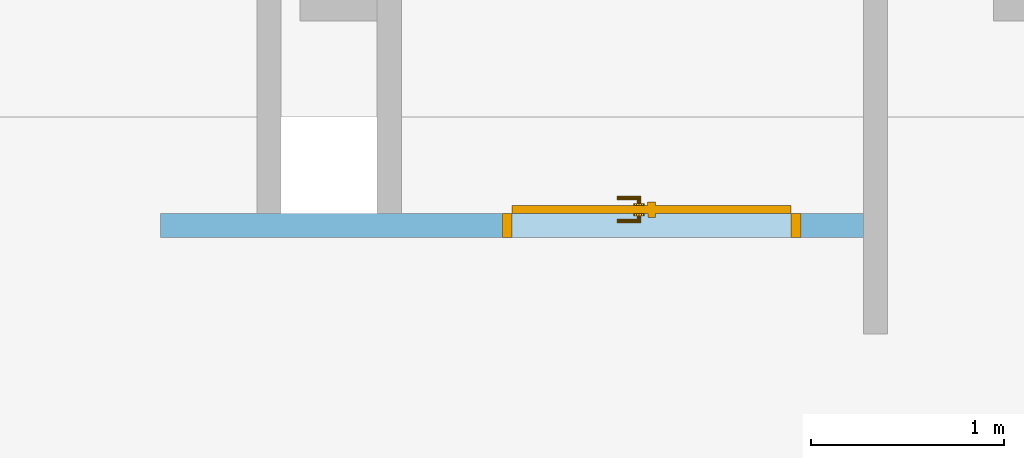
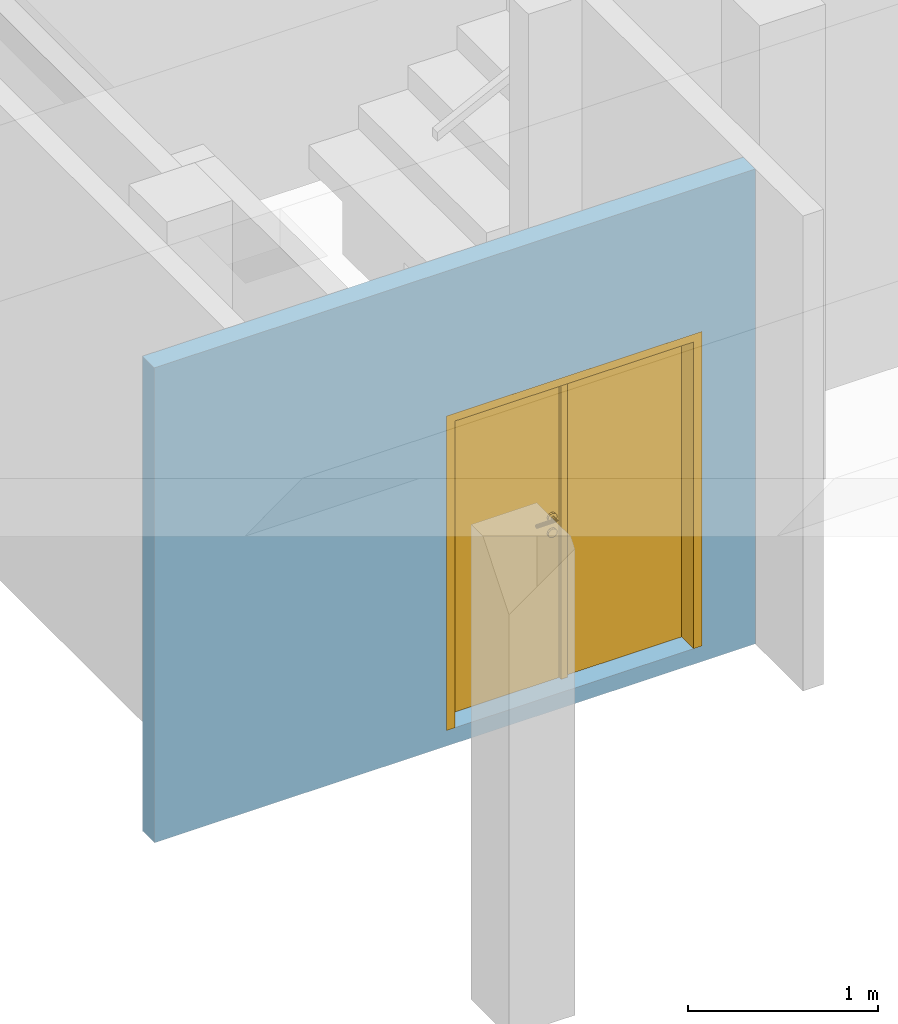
# One storey, part 23 of 27: 1 door, 1 opening, plus 1 element that does not belong to this part.
"""IFC4 building model written with IfcOpenShell, lengths in metres."""

from ifc_helpers import new_model, entity, si_unit, converted_unit, derived_unit, frame, frame_2d, origin, origin_with_axes, place, context, subcontext, project, spatial, polyline, rectangle, outline, extrude, closed_shell, open_shell, surface_model, source, transform, mapped, material, layer, layer_set, layer_usage, type_object, element, fill, save


model = new_model("IFC4")

# Units and contexts
model_context = context("Model", 3, precision=1e-05, world=origin())
body_context = subcontext(model_context, "Body", "Model", "MODEL_VIEW")
ifc_project = project(units=[si_unit("LENGTHUNIT", "METRE"), si_unit("AREAUNIT", "SQUARE_METRE"), si_unit("VOLUMEUNIT", "CUBIC_METRE"), si_unit("MASSUNIT", "GRAM", prefix="KILO"), converted_unit("PLANEANGLEUNIT", "DEGREE", entity("IfcPlaneAngleMeasure", 0.0174532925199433), si_unit("PLANEANGLEUNIT", "RADIAN"), dimensions=[0, 0, 0, 0, 0, 0, 0]), derived_unit("THERMALTRANSMITTANCEUNIT", [(si_unit("POWERUNIT", "WATT"), 1), (si_unit("THERMODYNAMICTEMPERATUREUNIT", "KELVIN"), -1), (si_unit("LENGTHUNIT", "METRE"), -2)]), derived_unit("VOLUMETRICFLOWRATEUNIT", [(si_unit("LENGTHUNIT", "METRE"), 3), (converted_unit("TIMEUNIT", "hour", entity("IfcTimeMeasure", 3600.0), si_unit("TIMEUNIT", "SECOND"), dimensions=[0, 0, 1, 0, 0, 0, 0]), -1), (si_unit("LENGTHUNIT", "METRE"), -1)])], contexts=[model_context])

# Site, building, storey
site_placement = place(None, origin())
site = spatial("IfcSite", under=ifc_project, at=site_placement, Name="3. ASŘ", CompositionType="ELEMENT")
building_placement = place(site_placement, origin())
building = spatial("IfcBuilding", under=site, at=building_placement, Name="Pavilon C", CompositionType="ELEMENT")
storey_placement = place(building_placement, frame((0.0, 0.0, 7.2)))
storey = spatial("IfcBuildingStorey", under=building, at=storey_placement, Name="Půdorys 3.NP", CompositionType="ELEMENT", Elevation=7.2)

# Wall, opening, door
ifc_material = material(Name="ZDIVO Z CDm")
ifc_layer = layer(ifc_material, 0.125)
ifc_layer_set = layer_set([ifc_layer])
ifc_layer_usage = layer_usage(ifc_layer_set, "AXIS2", "POSITIVE", 0.0)
wall_placement = place(storey_placement, frame((43.075, 27.6, -0.1), z_axis=(0.0, 0.0, 1.0), x_axis=(-1.0, 0.0, 0.0)))
wall = element("IfcWall", 1, at=wall_placement, inside=storey, material=ifc_layer_usage, Name="ZDIVO Z CDm", context=body_context, shape_type="SweptSolid", body=[
    extrude(rectangle(XDim=3.65, YDim=0.125, at=frame_2d((1.825, 0.0625), x_axis=(1.0, 0.0))), origin_with_axes(), (0.0, 0.0, 1.0), 3.05),
])
opening_placement = place(wall_placement, frame((0.325, 0.0, 0.1), z_axis=(0.0, 1.0, 0.0), x_axis=(0.0, 0.0, 1.0)))
opening = element("IfcOpeningElement", 2, at=opening_placement, cuts=wall, Name="Dveřní otvor", ObjectType="Opening", context=body_context, shape_type="SweptSolid", body=[
    extrude(outline(polyline([(0.0, 1.55), (2.02, 1.55), (2.02, 0.0), (0.0, 0.0), (0.0, 1.55)])), origin_with_axes(), (0.0, 0.0, 1.0), 0.125),
])
door_type = type_object("IfcDoorType", Name="D501", OperationType="NOTDEFINED", ParameterTakesPrecedence=False, PredefinedType="DOOR")
shared_shape = source(origin_with_axes(), body_context, "Body", "SurfaceModel", [
    surface_model("IfcShellBasedSurfaceModel", [(0.0, 0.125, 2.02), (0.0, 0.125, -7.65404249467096e-18), (0.05, 0.125, -7.65404249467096e-18), (0.05, 0.125, 2.02), (0.0, 0.0, 7.65404249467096e-18), (0.0, 2.41584530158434e-16, 2.02), (0.05, 2.41584530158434e-16, 2.02), (0.05, 0.0, 7.65404249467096e-18)], [closed_shell([[[0, 1, 2, 3]], [[4, 5, 6, 7]], [[1, 0, 5, 4]], [[2, 1, 4, 7]], [[3, 2, 7, 6]], [[0, 3, 6, 5]]], orient=[[False], [False], [False], [False], [False], [False]])]),
    surface_model("IfcShellBasedSurfaceModel", [(1.5, 0.125, 2.02), (1.5, 0.125, -7.65404249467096e-18), (1.55, 0.125, -7.65404249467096e-18), (1.55, 0.125, 2.02), (1.5, 0.0, 7.65404249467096e-18), (1.5, 2.41584530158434e-16, 2.02), (1.55, 2.41584530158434e-16, 2.02), (1.55, 0.0, 7.65404249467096e-18)], [closed_shell([[[0, 1, 2, 3]], [[4, 5, 6, 7]], [[1, 0, 5, 4]], [[2, 1, 4, 7]], [[3, 2, 7, 6]], [[0, 3, 6, 5]]], orient=[[False], [False], [False], [False], [False], [False]])]),
    surface_model("IfcShellBasedSurfaceModel", [(0.05, 0.125, 2.02), (0.05, 0.125, 1.97), (1.5, 0.125, 1.97), (1.5, 0.125, 2.02), (0.05, 2.41584530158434e-16, 1.97), (0.05, 2.41584530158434e-16, 2.02), (1.5, 2.41584530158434e-16, 2.02), (1.5, 2.41584530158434e-16, 1.97)], [closed_shell([[[0, 1, 2, 3]], [[4, 5, 6, 7]], [[1, 0, 5, 4]], [[2, 1, 4, 7]], [[3, 2, 7, 6]], [[0, 3, 6, 5]]], orient=[[False], [False], [False], [False], [False], [False]])]),
    surface_model("IfcShellBasedSurfaceModel", [(0.05, 0.165, 1.97), (0.05, 0.165, -1.25526296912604e-17), (0.7745, 0.165, -1.25526296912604e-17), (0.7745, 0.165, 1.97), (0.05, 0.125, -7.65404249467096e-18), (0.05, 0.125, 1.97), (0.7745, 0.125, 1.97), (0.7745, 0.125, -7.65404249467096e-18)], [closed_shell([[[0, 1, 2, 3]], [[4, 5, 6, 7]], [[1, 0, 5, 4]], [[2, 1, 4, 7]], [[3, 2, 7, 6]], [[0, 3, 6, 5]]], orient=[[False], [False], [False], [False], [False], [False]])]),
    surface_model("IfcShellBasedSurfaceModel", [(0.7545, 0.165, 1.97), (0.7945, 0.165, 1.97), (0.7945, 0.165, -1.25526296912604e-17), (0.7545, 0.165, -1.25526296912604e-17), (0.7545, 0.185, -1.50019232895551e-17), (0.7945, 0.185, -1.50019232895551e-17), (0.7945, 0.185, 1.97), (0.7545, 0.185, 1.97)], [closed_shell([[[0, 1, 2, 3]], [[4, 5, 6, 7]], [[3, 4, 7, 0]], [[2, 5, 4, 3]], [[1, 6, 5, 2]], [[0, 7, 6, 1]]], orient=[[False], [False], [False], [False], [False], [False]])]),
    surface_model("IfcShellBasedSurfaceModel", [(0.733315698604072, 0.125, 0.93625), (0.737, 0.125, 0.95), (0.733315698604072, 0.125, 0.96375), (0.72325, 0.125, 0.973815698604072), (0.7095, 0.125, 0.9775), (0.69575, 0.125, 0.973815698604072), (0.685684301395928, 0.125, 0.96375), (0.682, 0.125, 0.95), (0.685684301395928, 0.125, 0.93625), (0.69575, 0.125, 0.926184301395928), (0.7095, 0.125, 0.9225), (0.72325, 0.125, 0.926184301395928), (0.737, 0.1125, 0.95), (0.733315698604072, 0.1125, 0.93625), (0.72325, 0.1125, 0.926184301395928), (0.7095, 0.1125, 0.9225), (0.69575, 0.1125, 0.926184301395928), (0.685684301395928, 0.1125, 0.93625), (0.682, 0.1125, 0.95), (0.685684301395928, 0.1125, 0.96375), (0.69575, 0.1125, 0.973815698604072), (0.7095, 0.1125, 0.9775), (0.72325, 0.1125, 0.973815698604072), (0.733315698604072, 0.1125, 0.96375)], [closed_shell([[[0, 1, 2, 3, 4, 5, 6, 7, 8, 9, 10, 11]], [[12, 13, 14, 15, 16, 17, 18, 19, 20, 21, 22, 23]], [[1, 0, 13, 12]], [[2, 1, 12, 23]], [[3, 2, 23, 22]], [[4, 3, 22, 21]], [[5, 4, 21, 20]], [[6, 5, 20, 19]], [[7, 6, 19, 18]], [[8, 7, 18, 17]], [[9, 8, 17, 16]], [[10, 9, 16, 15]], [[11, 10, 15, 14]], [[0, 11, 14, 13]]], orient=[[False], [False], [False], [False], [False], [False], [False], [False], [False], [False], [False], [False], [False], [False]])]),
    surface_model("IfcShellBasedSurfaceModel", [(0.733315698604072, 0.125, 1.03625), (0.737, 0.125, 1.05), (0.733315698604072, 0.125, 1.06375), (0.72325, 0.125, 1.07381569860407), (0.7095, 0.125, 1.0775), (0.69575, 0.125, 1.07381569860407), (0.685684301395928, 0.125, 1.06375), (0.682, 0.125, 1.05), (0.685684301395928, 0.125, 1.03625), (0.69575, 0.125, 1.02618430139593), (0.7095, 0.125, 1.0225), (0.72325, 0.125, 1.02618430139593), (0.737, 0.1125, 1.05), (0.733315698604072, 0.1125, 1.03625), (0.72325, 0.1125, 1.02618430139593), (0.7095, 0.1125, 1.0225), (0.69575, 0.1125, 1.02618430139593), (0.685684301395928, 0.1125, 1.03625), (0.682, 0.1125, 1.05), (0.685684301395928, 0.1125, 1.06375), (0.69575, 0.1125, 1.07381569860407), (0.7095, 0.1125, 1.0775), (0.72325, 0.1125, 1.07381569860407), (0.733315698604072, 0.1125, 1.06375)], [closed_shell([[[0, 1, 2, 3, 4, 5, 6, 7, 8, 9, 10, 11]], [[12, 13, 14, 15, 16, 17, 18, 19, 20, 21, 22, 23]], [[1, 0, 13, 12]], [[2, 1, 12, 23]], [[3, 2, 23, 22]], [[4, 3, 22, 21]], [[5, 4, 21, 20]], [[6, 5, 20, 19]], [[7, 6, 19, 18]], [[8, 7, 18, 17]], [[9, 8, 17, 16]], [[10, 9, 16, 15]], [[11, 10, 15, 14]], [[0, 11, 14, 13]]], orient=[[False], [False], [False], [False], [False], [False], [False], [False], [False], [False], [False], [False], [False], [False]])]),
    surface_model("IfcShellBasedSurfaceModel", [(0.7095, 0.125, 1.06), (0.7045, 0.125, 1.05866025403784), (0.700839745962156, 0.125, 1.055), (0.6995, 0.125, 1.05), (0.700839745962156, 0.125, 1.045), (0.7045, 0.125, 1.04133974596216), (0.7095, 0.125, 1.04), (0.7145, 0.125, 1.04133974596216), (0.718160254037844, 0.125, 1.045), (0.7195, 0.125, 1.05), (0.718160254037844, 0.125, 1.055), (0.7145, 0.125, 1.05866025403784), (0.7145, 0.0800000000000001, 1.05866025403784), (0.7095, 0.0850000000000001, 1.06), (0.718160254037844, 0.0763397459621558, 1.055), (0.7195, 0.0750000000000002, 1.05), (0.718160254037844, 0.0763397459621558, 1.045), (0.7145, 0.0800000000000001, 1.04133974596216), (0.7095, 0.0850000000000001, 1.04), (0.7045, 0.0900000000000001, 1.04133974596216), (0.700839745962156, 0.0936602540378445, 1.045), (0.6995, 0.0950000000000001, 1.05), (0.700839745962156, 0.0936602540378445, 1.055), (0.7045, 0.0900000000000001, 1.05866025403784), (0.5945, 0.0800000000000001, 1.05866025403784), (0.5945, 0.0850000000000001, 1.06), (0.5945, 0.0763397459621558, 1.055), (0.5945, 0.0750000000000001, 1.05), (0.5945, 0.0763397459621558, 1.045), (0.5945, 0.0800000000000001, 1.04133974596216), (0.5945, 0.0850000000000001, 1.04), (0.5945, 0.0900000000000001, 1.04133974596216), (0.5945, 0.0936602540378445, 1.045), (0.5945, 0.0950000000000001, 1.05), (0.5945, 0.0936602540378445, 1.055), (0.5945, 0.0900000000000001, 1.05866025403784)], [open_shell([[[0, 1, 2, 3, 4, 5, 6, 7, 8, 9, 10, 11]], [[0, 11, 12, 13]], [[11, 10, 14, 12]], [[10, 9, 15, 14]], [[9, 8, 16, 15]], [[8, 7, 17, 16]], [[7, 6, 18, 17]], [[6, 5, 19, 18]], [[5, 4, 20, 19]], [[4, 3, 21, 20]], [[3, 2, 22, 21]], [[2, 1, 23, 22]], [[1, 0, 13, 23]], [[13, 12, 24, 25]], [[12, 14, 26, 24]], [[14, 15, 27, 26]], [[15, 16, 28, 27]], [[16, 17, 29, 28]], [[17, 18, 30, 29]], [[18, 19, 31, 30]], [[19, 20, 32, 31]], [[20, 21, 33, 32]], [[21, 22, 34, 33]], [[22, 23, 35, 34]], [[23, 13, 25, 35]]], orient=[[False], [False], [False], [False], [False], [False], [False], [False], [False], [False], [False], [False], [False], [False], [False], [False], [False], [False], [False], [False], [False], [False], [False], [False], [False]])]),
    surface_model("IfcShellBasedSurfaceModel", [(0.733315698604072, 0.165, 0.93625), (0.72325, 0.165, 0.926184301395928), (0.7095, 0.165, 0.9225), (0.69575, 0.165, 0.926184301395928), (0.685684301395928, 0.165, 0.93625), (0.682, 0.165, 0.95), (0.685684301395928, 0.165, 0.96375), (0.69575, 0.165, 0.973815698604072), (0.7095, 0.165, 0.9775), (0.72325, 0.165, 0.973815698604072), (0.733315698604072, 0.165, 0.96375), (0.737, 0.165, 0.95), (0.737, 0.1775, 0.95), (0.733315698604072, 0.1775, 0.96375), (0.72325, 0.1775, 0.973815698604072), (0.7095, 0.1775, 0.9775), (0.69575, 0.1775, 0.973815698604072), (0.685684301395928, 0.1775, 0.96375), (0.682, 0.1775, 0.95), (0.685684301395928, 0.1775, 0.93625), (0.69575, 0.1775, 0.926184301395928), (0.7095, 0.1775, 0.9225), (0.72325, 0.1775, 0.926184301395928), (0.733315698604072, 0.1775, 0.93625)], [closed_shell([[[0, 1, 2, 3, 4, 5, 6, 7, 8, 9, 10, 11]], [[12, 13, 14, 15, 16, 17, 18, 19, 20, 21, 22, 23]], [[11, 12, 23, 0]], [[10, 13, 12, 11]], [[9, 14, 13, 10]], [[8, 15, 14, 9]], [[7, 16, 15, 8]], [[6, 17, 16, 7]], [[5, 18, 17, 6]], [[4, 19, 18, 5]], [[3, 20, 19, 4]], [[2, 21, 20, 3]], [[1, 22, 21, 2]], [[0, 23, 22, 1]]], orient=[[False], [False], [False], [False], [False], [False], [False], [False], [False], [False], [False], [False], [False], [False]])]),
    surface_model("IfcShellBasedSurfaceModel", [(0.733315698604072, 0.165, 1.03625), (0.72325, 0.165, 1.02618430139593), (0.7095, 0.165, 1.0225), (0.69575, 0.165, 1.02618430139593), (0.685684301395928, 0.165, 1.03625), (0.682, 0.165, 1.05), (0.685684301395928, 0.165, 1.06375), (0.69575, 0.165, 1.07381569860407), (0.7095, 0.165, 1.0775), (0.72325, 0.165, 1.07381569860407), (0.733315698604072, 0.165, 1.06375), (0.737, 0.165, 1.05), (0.737, 0.1775, 1.05), (0.733315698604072, 0.1775, 1.06375), (0.72325, 0.1775, 1.07381569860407), (0.7095, 0.1775, 1.0775), (0.69575, 0.1775, 1.07381569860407), (0.685684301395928, 0.1775, 1.06375), (0.682, 0.1775, 1.05), (0.685684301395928, 0.1775, 1.03625), (0.69575, 0.1775, 1.02618430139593), (0.7095, 0.1775, 1.0225), (0.72325, 0.1775, 1.02618430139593), (0.733315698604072, 0.1775, 1.03625)], [closed_shell([[[0, 1, 2, 3, 4, 5, 6, 7, 8, 9, 10, 11]], [[12, 13, 14, 15, 16, 17, 18, 19, 20, 21, 22, 23]], [[11, 12, 23, 0]], [[10, 13, 12, 11]], [[9, 14, 13, 10]], [[8, 15, 14, 9]], [[7, 16, 15, 8]], [[6, 17, 16, 7]], [[5, 18, 17, 6]], [[4, 19, 18, 5]], [[3, 20, 19, 4]], [[2, 21, 20, 3]], [[1, 22, 21, 2]], [[0, 23, 22, 1]]], orient=[[False], [False], [False], [False], [False], [False], [False], [False], [False], [False], [False], [False], [False], [False]])]),
    surface_model("IfcShellBasedSurfaceModel", [(0.7095, 0.165, 1.06), (0.7145, 0.165, 1.05866025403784), (0.718160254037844, 0.165, 1.055), (0.7195, 0.165, 1.05), (0.718160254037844, 0.165, 1.045), (0.7145, 0.165, 1.04133974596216), (0.7095, 0.165, 1.04), (0.7045, 0.165, 1.04133974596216), (0.700839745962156, 0.165, 1.045), (0.6995, 0.165, 1.05), (0.700839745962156, 0.165, 1.055), (0.7045, 0.165, 1.05866025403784), (0.7095, 0.205, 1.06), (0.7145, 0.21, 1.05866025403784), (0.718160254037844, 0.213660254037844, 1.055), (0.7195, 0.215, 1.05), (0.718160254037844, 0.213660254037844, 1.045), (0.7145, 0.21, 1.04133974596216), (0.7095, 0.205, 1.04), (0.7045, 0.2, 1.04133974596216), (0.700839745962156, 0.196339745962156, 1.045), (0.6995, 0.195, 1.05), (0.700839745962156, 0.196339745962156, 1.055), (0.7045, 0.2, 1.05866025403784), (0.5945, 0.205, 1.06), (0.5945, 0.21, 1.05866025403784), (0.5945, 0.213660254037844, 1.055), (0.5945, 0.215, 1.05), (0.5945, 0.213660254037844, 1.045), (0.5945, 0.21, 1.04133974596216), (0.5945, 0.205, 1.04), (0.5945, 0.2, 1.04133974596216), (0.5945, 0.196339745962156, 1.045), (0.5945, 0.195, 1.05), (0.5945, 0.196339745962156, 1.055), (0.5945, 0.2, 1.05866025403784)], [open_shell([[[0, 1, 2, 3, 4, 5, 6, 7, 8, 9, 10, 11]], [[0, 12, 13, 1]], [[1, 13, 14, 2]], [[2, 14, 15, 3]], [[3, 15, 16, 4]], [[4, 16, 17, 5]], [[5, 17, 18, 6]], [[6, 18, 19, 7]], [[7, 19, 20, 8]], [[8, 20, 21, 9]], [[9, 21, 22, 10]], [[10, 22, 23, 11]], [[11, 23, 12, 0]], [[12, 24, 25, 13]], [[13, 25, 26, 14]], [[14, 26, 27, 15]], [[15, 27, 28, 16]], [[16, 28, 29, 17]], [[17, 29, 30, 18]], [[18, 30, 31, 19]], [[19, 31, 32, 20]], [[20, 32, 33, 21]], [[21, 33, 34, 22]], [[22, 34, 35, 23]], [[23, 35, 24, 12]]], orient=[[False], [False], [False], [False], [False], [False], [False], [False], [False], [False], [False], [False], [False], [False], [False], [False], [False], [False], [False], [False], [False], [False], [False], [False], [False]])]),
    surface_model("IfcShellBasedSurfaceModel", [(0.7755, 0.165, 1.97), (0.7755, 0.165, -1.25526296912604e-17), (1.5, 0.165, -1.25526296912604e-17), (1.5, 0.165, 1.97), (0.7755, 0.125, -7.65404249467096e-18), (0.7755, 0.125, 1.97), (1.5, 0.125, 1.97), (1.5, 0.125, -7.65404249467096e-18)], [closed_shell([[[0, 1, 2, 3]], [[4, 5, 6, 7]], [[1, 0, 5, 4]], [[2, 1, 4, 7]], [[3, 2, 7, 6]], [[0, 3, 6, 5]]], orient=[[False], [False], [False], [False], [False], [False]])]),
    surface_model("IfcShellBasedSurfaceModel", [(0.7555, 0.125, 1.97), (0.7555, 0.125, -7.65404249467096e-18), (0.7955, 0.125, -7.65404249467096e-18), (0.7955, 0.125, 1.97), (0.7555, 0.105, -5.20474889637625e-18), (0.7555, 0.105, 1.97), (0.7955, 0.105, 1.97), (0.7955, 0.105, -5.20474889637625e-18)], [closed_shell([[[0, 1, 2, 3]], [[4, 5, 6, 7]], [[1, 0, 5, 4]], [[2, 1, 4, 7]], [[3, 2, 7, 6]], [[0, 3, 6, 5]]], orient=[[False], [False], [False], [False], [False], [False]])]),
])
door_placement = place(opening_placement, frame((0.0, 1.55, 0.125), z_axis=(1.0, 0.0, 0.0), x_axis=(0.0, -1.0, 2.44929359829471e-16)))
door = element("IfcDoor", 3, at=door_placement, inside=storey, type_object=door_type, Name="D501", OverallHeight=2.02, OverallWidth=1.55, context=body_context, shape_type="MappedRepresentation", body=[
    mapped(shared_shape, transform((0.0, 0.0, 0.0), x_axis=(1.0, 0.0, 0.0), y_axis=(0.0, 1.0, 0.0), z_axis=(0.0, 0.0, 1.0), scale=1.0)),
])
fill(opening, door)

save(model, "model.ifc")
